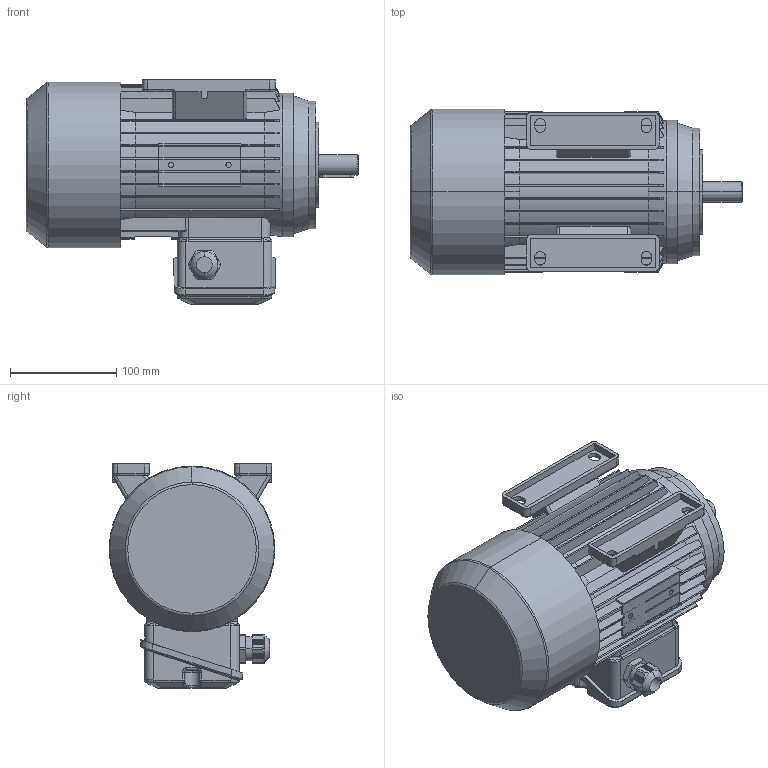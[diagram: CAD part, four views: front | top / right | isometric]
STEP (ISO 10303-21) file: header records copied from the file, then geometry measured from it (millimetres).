
FILE_DESCRIPTION (( 'STEP AP214' ), '1' );
FILE_NAME ('MAP80M4BU24B IM3641-A.STEP', '2020-11-12T08:57:49', ( '' ), ( '' ), 'SwSTEP 2.0', 'SolidWorks 2018', '' );
FILE_SCHEMA (( 'AUTOMOTIVE_DESIGN' ));
Length unit declared in the file: millimetre
Products named in the file (1): MAP80M4BU24B IM3641-A
Bounding box: 312.5 x 156 x 211 mm (x, y, z)
Volume: 4816269 mm3; surface area: 315889.1 mm2
Topology: 3 solids, 8 shells, 921 faces, 2430 edges, 1550 vertices
Faces by surface type: plane 455, cylinder 258, cone 97, bspline 76, torus 33, sphere 2
Entity records: 33860 total; most frequent: CARTESIAN_POINT 11995, ORIENTED_EDGE 4856, DIRECTION 4175, EDGE_CURVE 2428, VERTEX_POINT 1550, AXIS2_PLACEMENT_3D 1437, LINE 1301, VECTOR 1301
